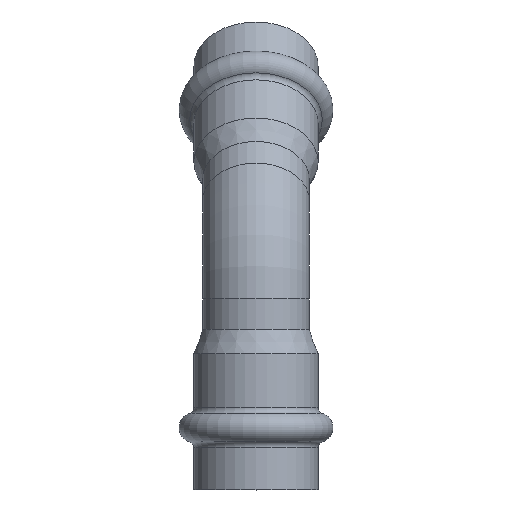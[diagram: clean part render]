
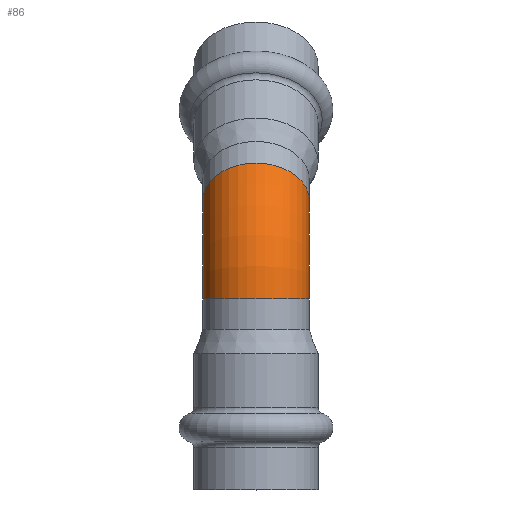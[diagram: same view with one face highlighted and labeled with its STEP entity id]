
A CAD part, top view. The second image highlights one B-rep face of the part: STEP entity #86.
In plain terms, the highlighted toroidal (fillet/blend) face has major radius 23.5 mm and minor radius 9 mm.
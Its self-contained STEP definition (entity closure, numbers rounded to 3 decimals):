
#86=ADVANCED_FACE('',(#368,#370),#372,.T.);
#368=FACE_BOUND('',#369,.T.);
#369=EDGE_LOOP('',(#458,#459));
#370=FACE_OUTER_BOUND('',#371,.T.);
#371=EDGE_LOOP('',(#460));
#372=TOROIDAL_SURFACE('',#373,23.5,9.);
#373=AXIS2_PLACEMENT_3D('',#374,#375,#376);
#374=CARTESIAN_POINT('',(0.,32.266,-23.5));
#375=DIRECTION('',(-1.,0.,0.));
#376=DIRECTION('',(0.,0.,1.));
#458=ORIENTED_EDGE('',*,*,#536,.T.);
#459=ORIENTED_EDGE('',*,*,#535,.T.);
#460=ORIENTED_EDGE('',*,*,#534,.F.);
#534=EDGE_CURVE('',#627,#627,#628,.T.);
#535=EDGE_CURVE('',#629,#630,#631,.T.);
#536=EDGE_CURVE('',#630,#629,#632,.T.);
#627=VERTEX_POINT('',#826);
#628=CIRCLE('',#827,9.);
#629=VERTEX_POINT('',#831);
#630=VERTEX_POINT('',#832);
#631=CIRCLE('',#833,9.);
#632=CIRCLE('',#837,9.);
#826=CARTESIAN_POINT('',(-9.,48.883,-6.883));
#827=AXIS2_PLACEMENT_3D('',#828,#829,#830);
#828=CARTESIAN_POINT('',(0.,48.883,-6.883));
#829=DIRECTION('',(0.,0.707,-0.707));
#830=DIRECTION('',(-1.,0.,0.));
#831=CARTESIAN_POINT('',(-9.,32.266,0.));
#832=CARTESIAN_POINT('',(0.,32.266,9.));
#833=AXIS2_PLACEMENT_3D('',#834,#835,#836);
#834=CARTESIAN_POINT('',(0.,32.266,0.));
#835=DIRECTION('',(0.,1.,0.));
#836=DIRECTION('',(-1.,0.,0.));
#837=AXIS2_PLACEMENT_3D('',#838,#839,#840);
#838=CARTESIAN_POINT('',(0.,32.266,0.));
#839=DIRECTION('',(0.,1.,0.));
#840=DIRECTION('',(0.,0.,1.));
